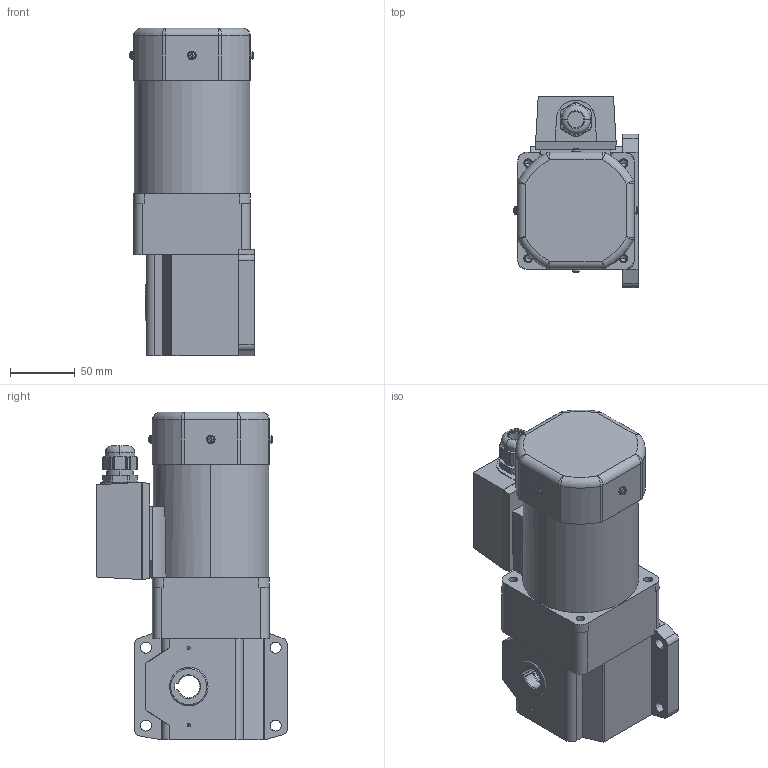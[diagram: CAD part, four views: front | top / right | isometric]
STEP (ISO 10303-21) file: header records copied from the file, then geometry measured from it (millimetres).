
FILE_DESCRIPTION (( 'STEP AP203' ), '1' );
FILE_NAME ('5_K90GE-_W2T__5GE_RH.STEP', '2022-06-28T21:29:05', ( '' ), ( '' ), 'SwSTEP 2.0', 'SolidWorks 2022', '' );
FILE_SCHEMA (( 'CONFIG_CONTROL_DESIGN' ));
Length unit declared in the file: millimetre
Products named in the file (1): 5_K90GE-_W2T__5GE_RH
Bounding box: 95.79 x 147 x 252.5 mm (x, y, z)
Volume: 1938340.1 mm3; surface area: 143373.6 mm2
Topology: 1 solids, 7 shells, 567 faces, 1565 edges, 1003 vertices
Faces by surface type: plane 294, cylinder 181, cone 30, torus 26, bspline 26, sphere 10
Entity records: 19880 total; most frequent: CARTESIAN_POINT 5235, ORIENTED_EDGE 3090, DIRECTION 3086, EDGE_CURVE 1545, AXIS2_PLACEMENT_3D 1180, VERTEX_POINT 1003, LINE 726, VECTOR 726
